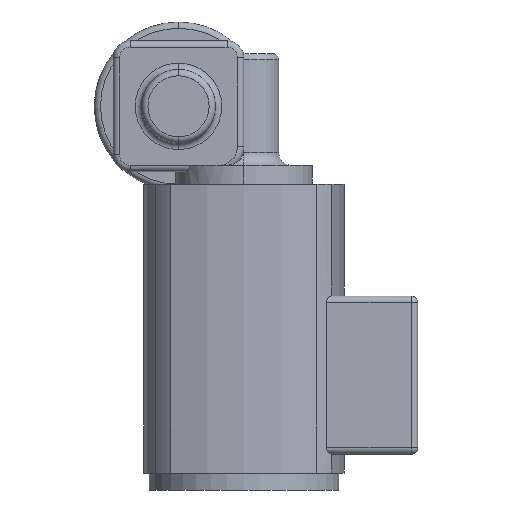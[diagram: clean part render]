
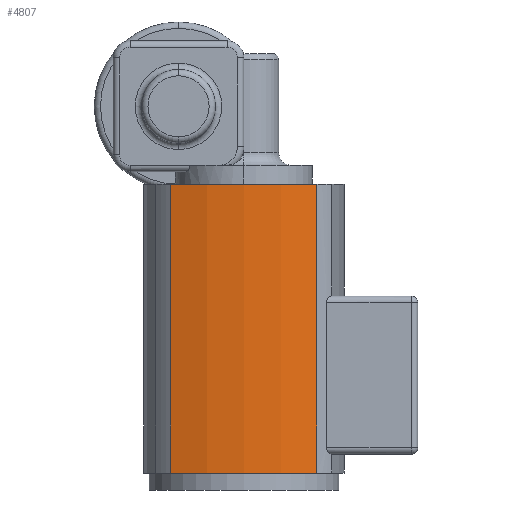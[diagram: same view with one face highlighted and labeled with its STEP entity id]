
A CAD part, left-side view. The second image highlights one B-rep face of the part: STEP entity #4807.
In plain terms, the highlighted cylindrical face has radius 107.045 mm (diameter 214.089 mm), a partial arc.
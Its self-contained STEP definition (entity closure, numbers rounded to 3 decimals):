
#59 = EDGE_CURVE ( 'NONE', #2460, #2459, #3039, .T. ) ;
#124 = EDGE_CURVE ( 'NONE', #3477, #2460, #1900, .T. ) ;
#987 = AXIS2_PLACEMENT_3D ( 'NONE', #1152, #1148, #1155 ) ;
#1148 = DIRECTION ( 'NONE',  ( 0., 0., 1. ) ) ;
#1151 = FACE_OUTER_BOUND ( 'NONE', #3327, .T. ) ;
#1152 = CARTESIAN_POINT ( 'NONE',  ( 0., 59.545, -137. ) ) ;
#1154 = CYLINDRICAL_SURFACE ( 'NONE', #987, 107.045 ) ;
#1155 = DIRECTION ( 'NONE',  ( 1., 0., 0. ) ) ;
#1676 = EDGE_CURVE ( 'NONE', #2478, #2459, #1890, .T. ) ;
#1677 = EDGE_CURVE ( 'NONE', #3477, #2478, #2083, .T. ) ;
#1887 = AXIS2_PLACEMENT_3D ( 'NONE', #2084, #2085, #2086 ) ;
#1890 = CIRCLE ( 'NONE', #1887, 107.045 ) ;
#1892 = VECTOR ( 'NONE', #2088, 1000. ) ;
#1897 = AXIS2_PLACEMENT_3D ( 'NONE', #2066, #2067, #2068 ) ;
#1900 = CIRCLE ( 'NONE', #1897, 107.045 ) ;
#2066 = CARTESIAN_POINT ( 'NONE',  ( 0., 59.545, -137. ) ) ;
#2067 = DIRECTION ( 'NONE',  ( 0., 0., 1. ) ) ;
#2068 = DIRECTION ( 'NONE',  ( 1., 0., 0. ) ) ;
#2072 = CARTESIAN_POINT ( 'NONE',  ( -34.662, -41.733, -137. ) ) ;
#2083 = LINE ( 'NONE', #2072, #1892 ) ;
#2084 = CARTESIAN_POINT ( 'NONE',  ( 0., 59.545, 0. ) ) ;
#2085 = DIRECTION ( 'NONE',  ( 0., 0., 1. ) ) ;
#2086 = DIRECTION ( 'NONE',  ( 1., 0., 0. ) ) ;
#2088 = DIRECTION ( 'NONE',  ( 0., 0., 1. ) ) ;
#2281 = CARTESIAN_POINT ( 'NONE',  ( 34.662, -41.733, 0. ) ) ;
#2282 = CARTESIAN_POINT ( 'NONE',  ( 34.662, -41.733, -137. ) ) ;
#2300 = CARTESIAN_POINT ( 'NONE',  ( -34.662, -41.733, 0. ) ) ;
#2459 = VERTEX_POINT ( 'NONE', #2281 ) ;
#2460 = VERTEX_POINT ( 'NONE', #2282 ) ;
#2478 = VERTEX_POINT ( 'NONE', #2300 ) ;
#2822 = VECTOR ( 'NONE', #3042, 1000. ) ;
#3039 = LINE ( 'NONE', #3041, #2822 ) ;
#3041 = CARTESIAN_POINT ( 'NONE',  ( 34.662, -41.733, -137. ) ) ;
#3042 = DIRECTION ( 'NONE',  ( 0., 0., 1. ) ) ;
#3327 = EDGE_LOOP ( 'NONE', ( #3405, #3404, #3403, #3402 ) ) ;
#3402 = ORIENTED_EDGE ( 'NONE', *, *, #59, .T. ) ;
#3403 = ORIENTED_EDGE ( 'NONE', *, *, #124, .T. ) ;
#3404 = ORIENTED_EDGE ( 'NONE', *, *, #1677, .F. ) ;
#3405 = ORIENTED_EDGE ( 'NONE', *, *, #1676, .F. ) ;
#3477 = VERTEX_POINT ( 'NONE', #3495 ) ;
#3495 = CARTESIAN_POINT ( 'NONE',  ( -34.662, -41.733, -137. ) ) ;
#4807 = ADVANCED_FACE ( 'NONE', ( #1151 ), #1154, .T. ) ;
